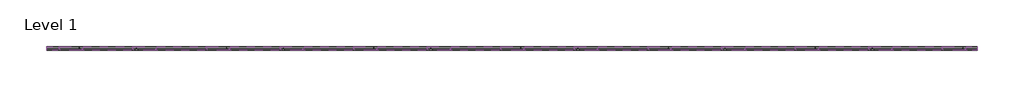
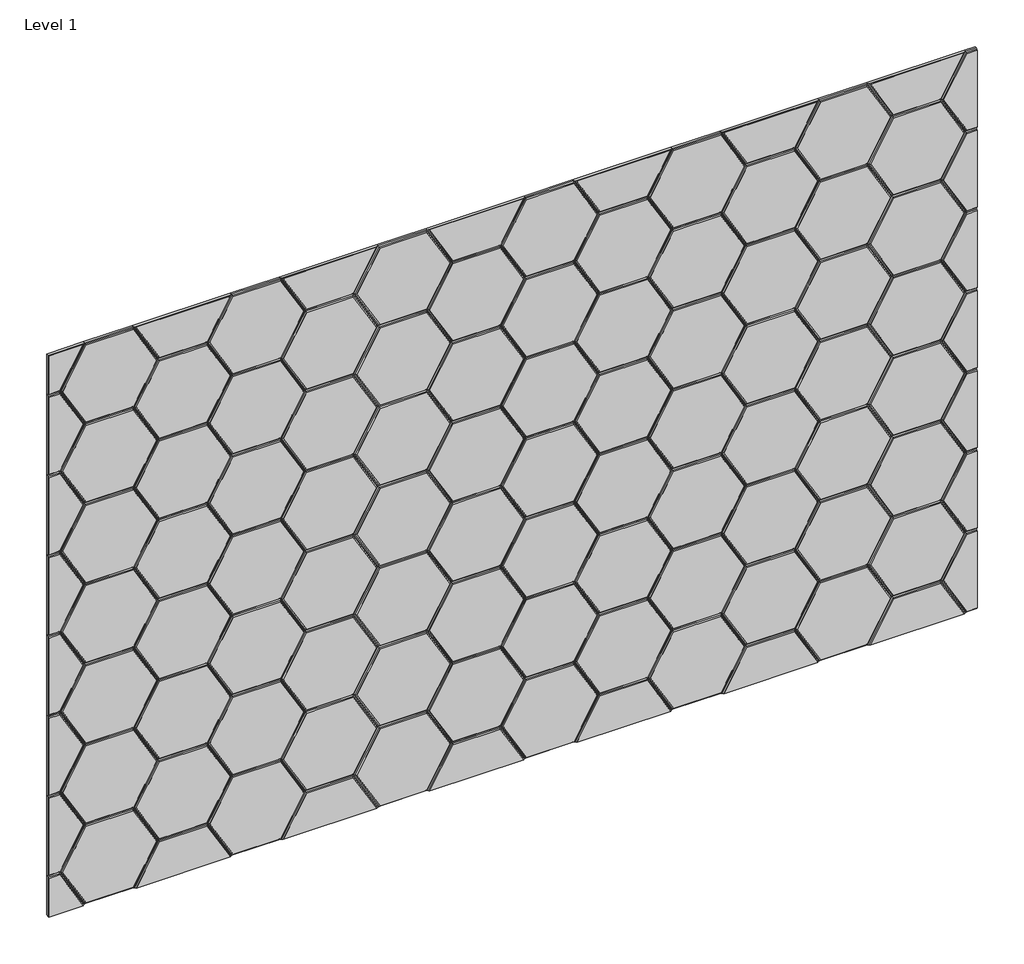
# One storey: 105 proxies.
"""IFC4 building model written with IfcOpenShell, lengths in millimetres."""

from ifc_helpers import new_model, si_unit, origin, place, context, project, spatial, transform, mapped, element, save
from components import chamfered_edge_9c3c0ad3, chamfered_edge_e754ccc9, chamfered_edge_8c6738dd, chamfered_edge_68122265, chamfered_edge_a27fcddb, chamfered_edge_5073ca42, chamfered_edge_54a6cffc

model = new_model("IFC4")

# Units and contexts
model_context = context("Model", 3, world=origin())
ifc_project = project(units=[si_unit("LENGTHUNIT", "METRE", prefix="MILLI")], contexts=[model_context])

# Site, building, storey
site = spatial("IfcSite", under=ifc_project)
building = spatial("IfcBuilding", under=site)
storey = spatial("IfcBuildingStorey", under=building, Name="Level 1", Elevation=0.0)

# Proxies
placement = place(None, origin())
chamfered_edge_shape = chamfered_edge_9c3c0ad3(model_context)
element("IfcBuildingElementProxy", 1, Name="FilzFelt_Hex_Block : Chamfered Edge", ObjectType="FilzFelt_Hex_Block : Chamfered Edge", at=placement, inside=storey, context=model_context, shape_type="MappedRepresentation", body=[
    mapped(chamfered_edge_shape, transform((28831.2237025, 4010.4660665, 1480.8), x_axis=(1.0, 0.0, 0.0), y_axis=(0.0, 0.0, 1.0), z_axis=(0.0, -1.0, 0.0))),
])
element("IfcBuildingElementProxy", 2, Name="FilzFelt_Hex_Block : Chamfered Edge", ObjectType="FilzFelt_Hex_Block : Chamfered Edge", at=placement, inside=storey, context=model_context, shape_type="MappedRepresentation", body=[
    mapped(chamfered_edge_shape, transform((28831.2237025, 4010.4660665, 2090.4), x_axis=(1.0, 0.0, 0.0), y_axis=(0.0, 0.0, 1.0), z_axis=(0.0, -1.0, 0.0))),
])
element("IfcBuildingElementProxy", 3, Name="FilzFelt_Hex_Block : Chamfered Edge", ObjectType="FilzFelt_Hex_Block : Chamfered Edge", at=placement, inside=storey, context=model_context, shape_type="MappedRepresentation", body=[
    mapped(chamfered_edge_shape, transform((28831.2237025, 4010.4660665, 871.2), x_axis=(1.0, 0.0, 0.0), y_axis=(0.0, 0.0, 1.0), z_axis=(0.0, -1.0, 0.0))),
])
element("IfcBuildingElementProxy", 4, Name="FilzFelt_Hex_Block : Chamfered Edge", ObjectType="FilzFelt_Hex_Block : Chamfered Edge", at=placement, inside=storey, context=model_context, shape_type="MappedRepresentation", body=[
    mapped(chamfered_edge_shape, transform((28831.2237025, 4010.4660665, 1785.6), x_axis=(1.0, 0.0, 0.0), y_axis=(0.0, 0.0, 1.0), z_axis=(0.0, -1.0, 0.0))),
])
element("IfcBuildingElementProxy", 5, Name="FilzFelt_Hex_Block : Chamfered Edge", ObjectType="FilzFelt_Hex_Block : Chamfered Edge", at=placement, inside=storey, context=model_context, shape_type="MappedRepresentation", body=[
    mapped(chamfered_edge_shape, transform((28831.2237025, 4010.4660665, 2395.2), x_axis=(1.0, 0.0, 0.0), y_axis=(0.0, 0.0, 1.0), z_axis=(0.0, -1.0, 0.0))),
])
element("IfcBuildingElementProxy", 6, Name="FilzFelt_Hex_Block : Chamfered Edge", ObjectType="FilzFelt_Hex_Block : Chamfered Edge", at=placement, inside=storey, context=model_context, shape_type="MappedRepresentation", body=[
    mapped(chamfered_edge_shape, transform((28831.2237025, 4010.4660665, 1176.0), x_axis=(1.0, 0.0, 0.0), y_axis=(0.0, 0.0, 1.0), z_axis=(0.0, -1.0, 0.0))),
])
chamfered_edge_2_shape = chamfered_edge_e754ccc9(model_context)
element("IfcBuildingElementProxy", 7, Name="FilzFelt_Hex_Block : Chamfered Edge", ObjectType="FilzFelt_Hex_Block : Chamfered Edge", at=placement, inside=storey, context=model_context, shape_type="MappedRepresentation", body=[
    mapped(chamfered_edge_2_shape, transform((29095.1882456, 4010.4660665, 1023.6), x_axis=(1.0, 0.0, 0.0), y_axis=(0.0, 0.0, 1.0), z_axis=(0.0, -1.0, 0.0))),
])
element("IfcBuildingElementProxy", 8, Name="FilzFelt_Hex_Block : Chamfered Edge", ObjectType="FilzFelt_Hex_Block : Chamfered Edge", at=placement, inside=storey, context=model_context, shape_type="MappedRepresentation", body=[
    mapped(chamfered_edge_2_shape, transform((29095.1882456, 4010.4660665, 1633.2), x_axis=(1.0, 0.0, 0.0), y_axis=(0.0, 0.0, 1.0), z_axis=(0.0, -1.0, 0.0))),
])
element("IfcBuildingElementProxy", 9, Name="FilzFelt_Hex_Block : Chamfered Edge", ObjectType="FilzFelt_Hex_Block : Chamfered Edge", at=placement, inside=storey, context=model_context, shape_type="MappedRepresentation", body=[
    mapped(chamfered_edge_2_shape, transform((29623.1173317, 4010.4660665, 1328.4), x_axis=(1.0, 0.0, 0.0), y_axis=(0.0, 0.0, 1.0), z_axis=(0.0, -1.0, 0.0))),
])
element("IfcBuildingElementProxy", 10, Name="FilzFelt_Hex_Block : Chamfered Edge", ObjectType="FilzFelt_Hex_Block : Chamfered Edge", at=placement, inside=storey, context=model_context, shape_type="MappedRepresentation", body=[
    mapped(chamfered_edge_2_shape, transform((29623.1173317, 4010.4660665, 1938.0), x_axis=(1.0, 0.0, 0.0), y_axis=(0.0, 0.0, 1.0), z_axis=(0.0, -1.0, 0.0))),
])
element("IfcBuildingElementProxy", 11, Name="FilzFelt_Hex_Block : Chamfered Edge", ObjectType="FilzFelt_Hex_Block : Chamfered Edge", at=placement, inside=storey, context=model_context, shape_type="MappedRepresentation", body=[
    mapped(chamfered_edge_2_shape, transform((29887.0818748, 4010.4660665, 1480.8), x_axis=(1.0, 0.0, 0.0), y_axis=(0.0, 0.0, 1.0), z_axis=(0.0, -1.0, 0.0))),
])
element("IfcBuildingElementProxy", 12, Name="FilzFelt_Hex_Block : Chamfered Edge", ObjectType="FilzFelt_Hex_Block : Chamfered Edge", at=placement, inside=storey, context=model_context, shape_type="MappedRepresentation", body=[
    mapped(chamfered_edge_2_shape, transform((30415.010961, 4010.4660665, 1785.6), x_axis=(1.0, 0.0, 0.0), y_axis=(0.0, 0.0, 1.0), z_axis=(0.0, -1.0, 0.0))),
])
element("IfcBuildingElementProxy", 13, Name="FilzFelt_Hex_Block : Chamfered Edge", ObjectType="FilzFelt_Hex_Block : Chamfered Edge", at=placement, inside=storey, context=model_context, shape_type="MappedRepresentation", body=[
    mapped(chamfered_edge_2_shape, transform((30678.975504, 4010.4660665, 1328.4), x_axis=(1.0, 0.0, 0.0), y_axis=(0.0, 0.0, 1.0), z_axis=(0.0, -1.0, 0.0))),
])
element("IfcBuildingElementProxy", 14, Name="FilzFelt_Hex_Block : Chamfered Edge", ObjectType="FilzFelt_Hex_Block : Chamfered Edge", at=placement, inside=storey, context=model_context, shape_type="MappedRepresentation", body=[
    mapped(chamfered_edge_2_shape, transform((30678.975504, 4010.4660665, 1938.0), x_axis=(1.0, 0.0, 0.0), y_axis=(0.0, 0.0, 1.0), z_axis=(0.0, -1.0, 0.0))),
])
element("IfcBuildingElementProxy", 15, Name="FilzFelt_Hex_Block : Chamfered Edge", ObjectType="FilzFelt_Hex_Block : Chamfered Edge", at=placement, inside=storey, context=model_context, shape_type="MappedRepresentation", body=[
    mapped(chamfered_edge_2_shape, transform((31206.9045902, 4010.4660665, 1023.6), x_axis=(1.0, 0.0, 0.0), y_axis=(0.0, 0.0, 1.0), z_axis=(0.0, -1.0, 0.0))),
])
element("IfcBuildingElementProxy", 16, Name="FilzFelt_Hex_Block : Chamfered Edge", ObjectType="FilzFelt_Hex_Block : Chamfered Edge", at=placement, inside=storey, context=model_context, shape_type="MappedRepresentation", body=[
    mapped(chamfered_edge_2_shape, transform((31206.9045902, 4010.4660665, 1633.2), x_axis=(1.0, 0.0, 0.0), y_axis=(0.0, 0.0, 1.0), z_axis=(0.0, -1.0, 0.0))),
])
element("IfcBuildingElementProxy", 17, Name="FilzFelt_Hex_Block : Chamfered Edge", ObjectType="FilzFelt_Hex_Block : Chamfered Edge", at=placement, inside=storey, context=model_context, shape_type="MappedRepresentation", body=[
    mapped(chamfered_edge_2_shape, transform((31470.8691332, 4010.4660665, 1785.6), x_axis=(1.0, 0.0, 0.0), y_axis=(0.0, 0.0, 1.0), z_axis=(0.0, -1.0, 0.0))),
])
element("IfcBuildingElementProxy", 18, Name="FilzFelt_Hex_Block : Chamfered Edge", ObjectType="FilzFelt_Hex_Block : Chamfered Edge", at=placement, inside=storey, context=model_context, shape_type="MappedRepresentation", body=[
    mapped(chamfered_edge_2_shape, transform((29095.1882456, 4010.4660665, 2242.8), x_axis=(1.0, 0.0, 0.0), y_axis=(0.0, 0.0, 1.0), z_axis=(0.0, -1.0, 0.0))),
])
element("IfcBuildingElementProxy", 19, Name="FilzFelt_Hex_Block : Chamfered Edge", ObjectType="FilzFelt_Hex_Block : Chamfered Edge", at=placement, inside=storey, context=model_context, shape_type="MappedRepresentation", body=[
    mapped(chamfered_edge_2_shape, transform((29623.1173317, 4010.4660665, 2547.6), x_axis=(1.0, 0.0, 0.0), y_axis=(0.0, 0.0, 1.0), z_axis=(0.0, -1.0, 0.0))),
])
element("IfcBuildingElementProxy", 20, Name="FilzFelt_Hex_Block : Chamfered Edge", ObjectType="FilzFelt_Hex_Block : Chamfered Edge", at=placement, inside=storey, context=model_context, shape_type="MappedRepresentation", body=[
    mapped(chamfered_edge_2_shape, transform((30415.010961, 4010.4660665, 2395.2), x_axis=(1.0, 0.0, 0.0), y_axis=(0.0, 0.0, 1.0), z_axis=(0.0, -1.0, 0.0))),
])
element("IfcBuildingElementProxy", 21, Name="FilzFelt_Hex_Block : Chamfered Edge", ObjectType="FilzFelt_Hex_Block : Chamfered Edge", at=placement, inside=storey, context=model_context, shape_type="MappedRepresentation", body=[
    mapped(chamfered_edge_2_shape, transform((30678.975504, 4010.4660665, 2547.6), x_axis=(1.0, 0.0, 0.0), y_axis=(0.0, 0.0, 1.0), z_axis=(0.0, -1.0, 0.0))),
])
element("IfcBuildingElementProxy", 22, Name="FilzFelt_Hex_Block : Chamfered Edge", ObjectType="FilzFelt_Hex_Block : Chamfered Edge", at=placement, inside=storey, context=model_context, shape_type="MappedRepresentation", body=[
    mapped(chamfered_edge_2_shape, transform((31206.9045902, 4010.4660665, 2242.8), x_axis=(1.0, 0.0, 0.0), y_axis=(0.0, 0.0, 1.0), z_axis=(0.0, -1.0, 0.0))),
])
element("IfcBuildingElementProxy", 23, Name="FilzFelt_Hex_Block : Chamfered Edge", ObjectType="FilzFelt_Hex_Block : Chamfered Edge", at=placement, inside=storey, context=model_context, shape_type="MappedRepresentation", body=[
    mapped(chamfered_edge_2_shape, transform((31470.8691332, 4010.4660665, 2395.2), x_axis=(1.0, 0.0, 0.0), y_axis=(0.0, 0.0, 1.0), z_axis=(0.0, -1.0, 0.0))),
])
element("IfcBuildingElementProxy", 24, Name="FilzFelt_Hex_Block : Chamfered Edge", ObjectType="FilzFelt_Hex_Block : Chamfered Edge", at=placement, inside=storey, context=model_context, shape_type="MappedRepresentation", body=[
    mapped(chamfered_edge_2_shape, transform((30415.010961, 4010.4660665, 1176.0), x_axis=(1.0, 0.0, 0.0), y_axis=(0.0, 0.0, 1.0), z_axis=(0.0, -1.0, 0.0))),
])
element("IfcBuildingElementProxy", 25, Name="FilzFelt_Hex_Block : Chamfered Edge", ObjectType="FilzFelt_Hex_Block : Chamfered Edge", at=placement, inside=storey, context=model_context, shape_type="MappedRepresentation", body=[
    mapped(chamfered_edge_2_shape, transform((31470.8691332, 4010.4660665, 1176.0), x_axis=(1.0, 0.0, 0.0), y_axis=(0.0, 0.0, 1.0), z_axis=(0.0, -1.0, 0.0))),
])
element("IfcBuildingElementProxy", 26, Name="FilzFelt_Hex_Block : Chamfered Edge", ObjectType="FilzFelt_Hex_Block : Chamfered Edge", at=placement, inside=storey, context=model_context, shape_type="MappedRepresentation", body=[
    mapped(chamfered_edge_2_shape, transform((29887.0818748, 4010.4660665, 2090.4), x_axis=(1.0, 0.0, 0.0), y_axis=(0.0, 0.0, 1.0), z_axis=(0.0, -1.0, 0.0))),
])
element("IfcBuildingElementProxy", 27, Name="FilzFelt_Hex_Block : Chamfered Edge", ObjectType="FilzFelt_Hex_Block : Chamfered Edge", at=placement, inside=storey, context=model_context, shape_type="MappedRepresentation", body=[
    mapped(chamfered_edge_2_shape, transform((29887.0818748, 4010.4660665, 871.2), x_axis=(1.0, 0.0, 0.0), y_axis=(0.0, 0.0, 1.0), z_axis=(0.0, -1.0, 0.0))),
])
element("IfcBuildingElementProxy", 28, Name="FilzFelt_Hex_Block : Chamfered Edge", ObjectType="FilzFelt_Hex_Block : Chamfered Edge", at=placement, inside=storey, context=model_context, shape_type="MappedRepresentation", body=[
    mapped(chamfered_edge_2_shape, transform((31998.7982194, 4010.4660665, 1480.8), x_axis=(1.0, 0.0, 0.0), y_axis=(0.0, 0.0, 1.0), z_axis=(0.0, -1.0, 0.0))),
])
element("IfcBuildingElementProxy", 29, Name="FilzFelt_Hex_Block : Chamfered Edge", ObjectType="FilzFelt_Hex_Block : Chamfered Edge", at=placement, inside=storey, context=model_context, shape_type="MappedRepresentation", body=[
    mapped(chamfered_edge_2_shape, transform((31998.7982194, 4010.4660665, 2090.4), x_axis=(1.0, 0.0, 0.0), y_axis=(0.0, 0.0, 1.0), z_axis=(0.0, -1.0, 0.0))),
])
element("IfcBuildingElementProxy", 30, Name="FilzFelt_Hex_Block : Chamfered Edge", ObjectType="FilzFelt_Hex_Block : Chamfered Edge", at=placement, inside=storey, context=model_context, shape_type="MappedRepresentation", body=[
    mapped(chamfered_edge_2_shape, transform((31998.7982194, 4010.4660665, 871.2), x_axis=(1.0, 0.0, 0.0), y_axis=(0.0, 0.0, 1.0), z_axis=(0.0, -1.0, 0.0))),
])
element("IfcBuildingElementProxy", 31, Name="FilzFelt_Hex_Block : Chamfered Edge", ObjectType="FilzFelt_Hex_Block : Chamfered Edge", at=placement, inside=storey, context=model_context, shape_type="MappedRepresentation", body=[
    mapped(chamfered_edge_2_shape, transform((29623.1173317, 4010.4660665, 718.8), x_axis=(1.0, 0.0, 0.0), y_axis=(0.0, 0.0, 1.0), z_axis=(0.0, -1.0, 0.0))),
])
element("IfcBuildingElementProxy", 32, Name="FilzFelt_Hex_Block : Chamfered Edge", ObjectType="FilzFelt_Hex_Block : Chamfered Edge", at=placement, inside=storey, context=model_context, shape_type="MappedRepresentation", body=[
    mapped(chamfered_edge_2_shape, transform((30678.975504, 4010.4660665, 718.8), x_axis=(1.0, 0.0, 0.0), y_axis=(0.0, 0.0, 1.0), z_axis=(0.0, -1.0, 0.0))),
])
element("IfcBuildingElementProxy", 33, Name="FilzFelt_Hex_Block : Chamfered Edge", ObjectType="FilzFelt_Hex_Block : Chamfered Edge", at=placement, inside=storey, context=model_context, shape_type="MappedRepresentation", body=[
    mapped(chamfered_edge_2_shape, transform((29095.1882456, 4010.4660665, 1328.4), x_axis=(1.0, 0.0, 0.0), y_axis=(0.0, 0.0, 1.0), z_axis=(0.0, -1.0, 0.0))),
])
element("IfcBuildingElementProxy", 34, Name="FilzFelt_Hex_Block : Chamfered Edge", ObjectType="FilzFelt_Hex_Block : Chamfered Edge", at=placement, inside=storey, context=model_context, shape_type="MappedRepresentation", body=[
    mapped(chamfered_edge_2_shape, transform((29095.1882456, 4010.4660665, 1938.0), x_axis=(1.0, 0.0, 0.0), y_axis=(0.0, 0.0, 1.0), z_axis=(0.0, -1.0, 0.0))),
])
element("IfcBuildingElementProxy", 35, Name="FilzFelt_Hex_Block : Chamfered Edge", ObjectType="FilzFelt_Hex_Block : Chamfered Edge", at=placement, inside=storey, context=model_context, shape_type="MappedRepresentation", body=[
    mapped(chamfered_edge_2_shape, transform((29359.1527887, 4010.4660665, 1480.8), x_axis=(1.0, 0.0, 0.0), y_axis=(0.0, 0.0, 1.0), z_axis=(0.0, -1.0, 0.0))),
])
element("IfcBuildingElementProxy", 36, Name="FilzFelt_Hex_Block : Chamfered Edge", ObjectType="FilzFelt_Hex_Block : Chamfered Edge", at=placement, inside=storey, context=model_context, shape_type="MappedRepresentation", body=[
    mapped(chamfered_edge_2_shape, transform((29887.0818748, 4010.4660665, 1785.6), x_axis=(1.0, 0.0, 0.0), y_axis=(0.0, 0.0, 1.0), z_axis=(0.0, -1.0, 0.0))),
])
element("IfcBuildingElementProxy", 37, Name="FilzFelt_Hex_Block : Chamfered Edge", ObjectType="FilzFelt_Hex_Block : Chamfered Edge", at=placement, inside=storey, context=model_context, shape_type="MappedRepresentation", body=[
    mapped(chamfered_edge_2_shape, transform((30151.0464179, 4010.4660665, 1328.4), x_axis=(1.0, 0.0, 0.0), y_axis=(0.0, 0.0, 1.0), z_axis=(0.0, -1.0, 0.0))),
])
element("IfcBuildingElementProxy", 38, Name="FilzFelt_Hex_Block : Chamfered Edge", ObjectType="FilzFelt_Hex_Block : Chamfered Edge", at=placement, inside=storey, context=model_context, shape_type="MappedRepresentation", body=[
    mapped(chamfered_edge_2_shape, transform((30151.0464179, 4010.4660665, 1938.0), x_axis=(1.0, 0.0, 0.0), y_axis=(0.0, 0.0, 1.0), z_axis=(0.0, -1.0, 0.0))),
])
element("IfcBuildingElementProxy", 39, Name="FilzFelt_Hex_Block : Chamfered Edge", ObjectType="FilzFelt_Hex_Block : Chamfered Edge", at=placement, inside=storey, context=model_context, shape_type="MappedRepresentation", body=[
    mapped(chamfered_edge_2_shape, transform((30678.975504, 4010.4660665, 1023.6), x_axis=(1.0, 0.0, 0.0), y_axis=(0.0, 0.0, 1.0), z_axis=(0.0, -1.0, 0.0))),
])
element("IfcBuildingElementProxy", 40, Name="FilzFelt_Hex_Block : Chamfered Edge", ObjectType="FilzFelt_Hex_Block : Chamfered Edge", at=placement, inside=storey, context=model_context, shape_type="MappedRepresentation", body=[
    mapped(chamfered_edge_2_shape, transform((30678.975504, 4010.4660665, 1633.2), x_axis=(1.0, 0.0, 0.0), y_axis=(0.0, 0.0, 1.0), z_axis=(0.0, -1.0, 0.0))),
])
element("IfcBuildingElementProxy", 41, Name="FilzFelt_Hex_Block : Chamfered Edge", ObjectType="FilzFelt_Hex_Block : Chamfered Edge", at=placement, inside=storey, context=model_context, shape_type="MappedRepresentation", body=[
    mapped(chamfered_edge_2_shape, transform((30942.9400471, 4010.4660665, 1785.6), x_axis=(1.0, 0.0, 0.0), y_axis=(0.0, 0.0, 1.0), z_axis=(0.0, -1.0, 0.0))),
])
element("IfcBuildingElementProxy", 42, Name="FilzFelt_Hex_Block : Chamfered Edge", ObjectType="FilzFelt_Hex_Block : Chamfered Edge", at=placement, inside=storey, context=model_context, shape_type="MappedRepresentation", body=[
    mapped(chamfered_edge_2_shape, transform((31470.8691332, 4010.4660665, 1480.8), x_axis=(1.0, 0.0, 0.0), y_axis=(0.0, 0.0, 1.0), z_axis=(0.0, -1.0, 0.0))),
])
element("IfcBuildingElementProxy", 43, Name="FilzFelt_Hex_Block : Chamfered Edge", ObjectType="FilzFelt_Hex_Block : Chamfered Edge", at=placement, inside=storey, context=model_context, shape_type="MappedRepresentation", body=[
    mapped(chamfered_edge_2_shape, transform((29095.1882456, 4010.4660665, 2547.6), x_axis=(1.0, 0.0, 0.0), y_axis=(0.0, 0.0, 1.0), z_axis=(0.0, -1.0, 0.0))),
])
element("IfcBuildingElementProxy", 44, Name="FilzFelt_Hex_Block : Chamfered Edge", ObjectType="FilzFelt_Hex_Block : Chamfered Edge", at=placement, inside=storey, context=model_context, shape_type="MappedRepresentation", body=[
    mapped(chamfered_edge_2_shape, transform((29887.0818748, 4010.4660665, 2395.2), x_axis=(1.0, 0.0, 0.0), y_axis=(0.0, 0.0, 1.0), z_axis=(0.0, -1.0, 0.0))),
])
element("IfcBuildingElementProxy", 45, Name="FilzFelt_Hex_Block : Chamfered Edge", ObjectType="FilzFelt_Hex_Block : Chamfered Edge", at=placement, inside=storey, context=model_context, shape_type="MappedRepresentation", body=[
    mapped(chamfered_edge_2_shape, transform((30151.0464179, 4010.4660665, 2547.6), x_axis=(1.0, 0.0, 0.0), y_axis=(0.0, 0.0, 1.0), z_axis=(0.0, -1.0, 0.0))),
])
element("IfcBuildingElementProxy", 46, Name="FilzFelt_Hex_Block : Chamfered Edge", ObjectType="FilzFelt_Hex_Block : Chamfered Edge", at=placement, inside=storey, context=model_context, shape_type="MappedRepresentation", body=[
    mapped(chamfered_edge_2_shape, transform((30678.975504, 4010.4660665, 2242.8), x_axis=(1.0, 0.0, 0.0), y_axis=(0.0, 0.0, 1.0), z_axis=(0.0, -1.0, 0.0))),
])
element("IfcBuildingElementProxy", 47, Name="FilzFelt_Hex_Block : Chamfered Edge", ObjectType="FilzFelt_Hex_Block : Chamfered Edge", at=placement, inside=storey, context=model_context, shape_type="MappedRepresentation", body=[
    mapped(chamfered_edge_2_shape, transform((30942.9400471, 4010.4660665, 2395.2), x_axis=(1.0, 0.0, 0.0), y_axis=(0.0, 0.0, 1.0), z_axis=(0.0, -1.0, 0.0))),
])
element("IfcBuildingElementProxy", 48, Name="FilzFelt_Hex_Block : Chamfered Edge", ObjectType="FilzFelt_Hex_Block : Chamfered Edge", at=placement, inside=storey, context=model_context, shape_type="MappedRepresentation", body=[
    mapped(chamfered_edge_2_shape, transform((29887.0818748, 4010.4660665, 1176.0), x_axis=(1.0, 0.0, 0.0), y_axis=(0.0, 0.0, 1.0), z_axis=(0.0, -1.0, 0.0))),
])
element("IfcBuildingElementProxy", 49, Name="FilzFelt_Hex_Block : Chamfered Edge", ObjectType="FilzFelt_Hex_Block : Chamfered Edge", at=placement, inside=storey, context=model_context, shape_type="MappedRepresentation", body=[
    mapped(chamfered_edge_2_shape, transform((30942.9400471, 4010.4660665, 1176.0), x_axis=(1.0, 0.0, 0.0), y_axis=(0.0, 0.0, 1.0), z_axis=(0.0, -1.0, 0.0))),
])
element("IfcBuildingElementProxy", 50, Name="FilzFelt_Hex_Block : Chamfered Edge", ObjectType="FilzFelt_Hex_Block : Chamfered Edge", at=placement, inside=storey, context=model_context, shape_type="MappedRepresentation", body=[
    mapped(chamfered_edge_2_shape, transform((29359.1527887, 4010.4660665, 2090.4), x_axis=(1.0, 0.0, 0.0), y_axis=(0.0, 0.0, 1.0), z_axis=(0.0, -1.0, 0.0))),
])
element("IfcBuildingElementProxy", 51, Name="FilzFelt_Hex_Block : Chamfered Edge", ObjectType="FilzFelt_Hex_Block : Chamfered Edge", at=placement, inside=storey, context=model_context, shape_type="MappedRepresentation", body=[
    mapped(chamfered_edge_2_shape, transform((31470.8691332, 4010.4660665, 2090.4), x_axis=(1.0, 0.0, 0.0), y_axis=(0.0, 0.0, 1.0), z_axis=(0.0, -1.0, 0.0))),
])
element("IfcBuildingElementProxy", 52, Name="FilzFelt_Hex_Block : Chamfered Edge", ObjectType="FilzFelt_Hex_Block : Chamfered Edge", at=placement, inside=storey, context=model_context, shape_type="MappedRepresentation", body=[
    mapped(chamfered_edge_2_shape, transform((29359.1527887, 4010.4660665, 871.2), x_axis=(1.0, 0.0, 0.0), y_axis=(0.0, 0.0, 1.0), z_axis=(0.0, -1.0, 0.0))),
])
element("IfcBuildingElementProxy", 53, Name="FilzFelt_Hex_Block : Chamfered Edge", ObjectType="FilzFelt_Hex_Block : Chamfered Edge", at=placement, inside=storey, context=model_context, shape_type="MappedRepresentation", body=[
    mapped(chamfered_edge_2_shape, transform((31470.8691332, 4010.4660665, 871.2), x_axis=(1.0, 0.0, 0.0), y_axis=(0.0, 0.0, 1.0), z_axis=(0.0, -1.0, 0.0))),
])
element("IfcBuildingElementProxy", 54, Name="FilzFelt_Hex_Block : Chamfered Edge", ObjectType="FilzFelt_Hex_Block : Chamfered Edge", at=placement, inside=storey, context=model_context, shape_type="MappedRepresentation", body=[
    mapped(chamfered_edge_2_shape, transform((31734.8336763, 4010.4660665, 1023.6), x_axis=(1.0, 0.0, 0.0), y_axis=(0.0, 0.0, 1.0), z_axis=(0.0, -1.0, 0.0))),
])
element("IfcBuildingElementProxy", 55, Name="FilzFelt_Hex_Block : Chamfered Edge", ObjectType="FilzFelt_Hex_Block : Chamfered Edge", at=placement, inside=storey, context=model_context, shape_type="MappedRepresentation", body=[
    mapped(chamfered_edge_2_shape, transform((31734.8336763, 4010.4660665, 1633.2), x_axis=(1.0, 0.0, 0.0), y_axis=(0.0, 0.0, 1.0), z_axis=(0.0, -1.0, 0.0))),
])
element("IfcBuildingElementProxy", 56, Name="FilzFelt_Hex_Block : Chamfered Edge", ObjectType="FilzFelt_Hex_Block : Chamfered Edge", at=placement, inside=storey, context=model_context, shape_type="MappedRepresentation", body=[
    mapped(chamfered_edge_2_shape, transform((31734.8336763, 4010.4660665, 2242.8), x_axis=(1.0, 0.0, 0.0), y_axis=(0.0, 0.0, 1.0), z_axis=(0.0, -1.0, 0.0))),
])
element("IfcBuildingElementProxy", 57, Name="FilzFelt_Hex_Block : Chamfered Edge", ObjectType="FilzFelt_Hex_Block : Chamfered Edge", at=placement, inside=storey, context=model_context, shape_type="MappedRepresentation", body=[
    mapped(chamfered_edge_2_shape, transform((29095.1882456, 4010.4660665, 718.8), x_axis=(1.0, 0.0, 0.0), y_axis=(0.0, 0.0, 1.0), z_axis=(0.0, -1.0, 0.0))),
])
element("IfcBuildingElementProxy", 58, Name="FilzFelt_Hex_Block : Chamfered Edge", ObjectType="FilzFelt_Hex_Block : Chamfered Edge", at=placement, inside=storey, context=model_context, shape_type="MappedRepresentation", body=[
    mapped(chamfered_edge_2_shape, transform((30151.0464179, 4010.4660665, 718.8), x_axis=(1.0, 0.0, 0.0), y_axis=(0.0, 0.0, 1.0), z_axis=(0.0, -1.0, 0.0))),
])
element("IfcBuildingElementProxy", 59, Name="FilzFelt_Hex_Block : Chamfered Edge", ObjectType="FilzFelt_Hex_Block : Chamfered Edge", at=placement, inside=storey, context=model_context, shape_type="MappedRepresentation", body=[
    mapped(chamfered_edge_2_shape, transform((29359.1527887, 4010.4660665, 1785.6), x_axis=(1.0, 0.0, 0.0), y_axis=(0.0, 0.0, 1.0), z_axis=(0.0, -1.0, 0.0))),
])
element("IfcBuildingElementProxy", 60, Name="FilzFelt_Hex_Block : Chamfered Edge", ObjectType="FilzFelt_Hex_Block : Chamfered Edge", at=placement, inside=storey, context=model_context, shape_type="MappedRepresentation", body=[
    mapped(chamfered_edge_2_shape, transform((29623.1173317, 4010.4660665, 1023.6), x_axis=(1.0, 0.0, 0.0), y_axis=(0.0, 0.0, 1.0), z_axis=(0.0, -1.0, 0.0))),
])
element("IfcBuildingElementProxy", 61, Name="FilzFelt_Hex_Block : Chamfered Edge", ObjectType="FilzFelt_Hex_Block : Chamfered Edge", at=placement, inside=storey, context=model_context, shape_type="MappedRepresentation", body=[
    mapped(chamfered_edge_2_shape, transform((29623.1173317, 4010.4660665, 1633.2), x_axis=(1.0, 0.0, 0.0), y_axis=(0.0, 0.0, 1.0), z_axis=(0.0, -1.0, 0.0))),
])
element("IfcBuildingElementProxy", 62, Name="FilzFelt_Hex_Block : Chamfered Edge", ObjectType="FilzFelt_Hex_Block : Chamfered Edge", at=placement, inside=storey, context=model_context, shape_type="MappedRepresentation", body=[
    mapped(chamfered_edge_2_shape, transform((30151.0464179, 4010.4660665, 1023.6), x_axis=(1.0, 0.0, 0.0), y_axis=(0.0, 0.0, 1.0), z_axis=(0.0, -1.0, 0.0))),
])
element("IfcBuildingElementProxy", 63, Name="FilzFelt_Hex_Block : Chamfered Edge", ObjectType="FilzFelt_Hex_Block : Chamfered Edge", at=placement, inside=storey, context=model_context, shape_type="MappedRepresentation", body=[
    mapped(chamfered_edge_2_shape, transform((30151.0464179, 4010.4660665, 1633.2), x_axis=(1.0, 0.0, 0.0), y_axis=(0.0, 0.0, 1.0), z_axis=(0.0, -1.0, 0.0))),
])
element("IfcBuildingElementProxy", 64, Name="FilzFelt_Hex_Block : Chamfered Edge", ObjectType="FilzFelt_Hex_Block : Chamfered Edge", at=placement, inside=storey, context=model_context, shape_type="MappedRepresentation", body=[
    mapped(chamfered_edge_2_shape, transform((30415.010961, 4010.4660665, 1480.8), x_axis=(1.0, 0.0, 0.0), y_axis=(0.0, 0.0, 1.0), z_axis=(0.0, -1.0, 0.0))),
])
element("IfcBuildingElementProxy", 65, Name="FilzFelt_Hex_Block : Chamfered Edge", ObjectType="FilzFelt_Hex_Block : Chamfered Edge", at=placement, inside=storey, context=model_context, shape_type="MappedRepresentation", body=[
    mapped(chamfered_edge_2_shape, transform((30942.9400471, 4010.4660665, 1480.8), x_axis=(1.0, 0.0, 0.0), y_axis=(0.0, 0.0, 1.0), z_axis=(0.0, -1.0, 0.0))),
])
element("IfcBuildingElementProxy", 66, Name="FilzFelt_Hex_Block : Chamfered Edge", ObjectType="FilzFelt_Hex_Block : Chamfered Edge", at=placement, inside=storey, context=model_context, shape_type="MappedRepresentation", body=[
    mapped(chamfered_edge_2_shape, transform((31206.9045902, 4010.4660665, 1328.4), x_axis=(1.0, 0.0, 0.0), y_axis=(0.0, 0.0, 1.0), z_axis=(0.0, -1.0, 0.0))),
])
element("IfcBuildingElementProxy", 67, Name="FilzFelt_Hex_Block : Chamfered Edge", ObjectType="FilzFelt_Hex_Block : Chamfered Edge", at=placement, inside=storey, context=model_context, shape_type="MappedRepresentation", body=[
    mapped(chamfered_edge_2_shape, transform((31206.9045902, 4010.4660665, 1938.0), x_axis=(1.0, 0.0, 0.0), y_axis=(0.0, 0.0, 1.0), z_axis=(0.0, -1.0, 0.0))),
])
element("IfcBuildingElementProxy", 68, Name="FilzFelt_Hex_Block : Chamfered Edge", ObjectType="FilzFelt_Hex_Block : Chamfered Edge", at=placement, inside=storey, context=model_context, shape_type="MappedRepresentation", body=[
    mapped(chamfered_edge_2_shape, transform((29359.1527887, 4010.4660665, 2395.2), x_axis=(1.0, 0.0, 0.0), y_axis=(0.0, 0.0, 1.0), z_axis=(0.0, -1.0, 0.0))),
])
element("IfcBuildingElementProxy", 69, Name="FilzFelt_Hex_Block : Chamfered Edge", ObjectType="FilzFelt_Hex_Block : Chamfered Edge", at=placement, inside=storey, context=model_context, shape_type="MappedRepresentation", body=[
    mapped(chamfered_edge_2_shape, transform((29623.1173317, 4010.4660665, 2242.8), x_axis=(1.0, 0.0, 0.0), y_axis=(0.0, 0.0, 1.0), z_axis=(0.0, -1.0, 0.0))),
])
element("IfcBuildingElementProxy", 70, Name="FilzFelt_Hex_Block : Chamfered Edge", ObjectType="FilzFelt_Hex_Block : Chamfered Edge", at=placement, inside=storey, context=model_context, shape_type="MappedRepresentation", body=[
    mapped(chamfered_edge_2_shape, transform((30151.0464179, 4010.4660665, 2242.8), x_axis=(1.0, 0.0, 0.0), y_axis=(0.0, 0.0, 1.0), z_axis=(0.0, -1.0, 0.0))),
])
element("IfcBuildingElementProxy", 71, Name="FilzFelt_Hex_Block : Chamfered Edge", ObjectType="FilzFelt_Hex_Block : Chamfered Edge", at=placement, inside=storey, context=model_context, shape_type="MappedRepresentation", body=[
    mapped(chamfered_edge_2_shape, transform((31206.9045902, 4010.4660665, 2547.6), x_axis=(1.0, 0.0, 0.0), y_axis=(0.0, 0.0, 1.0), z_axis=(0.0, -1.0, 0.0))),
])
element("IfcBuildingElementProxy", 72, Name="FilzFelt_Hex_Block : Chamfered Edge", ObjectType="FilzFelt_Hex_Block : Chamfered Edge", at=placement, inside=storey, context=model_context, shape_type="MappedRepresentation", body=[
    mapped(chamfered_edge_2_shape, transform((29359.1527887, 4010.4660665, 1176.0), x_axis=(1.0, 0.0, 0.0), y_axis=(0.0, 0.0, 1.0), z_axis=(0.0, -1.0, 0.0))),
])
element("IfcBuildingElementProxy", 73, Name="FilzFelt_Hex_Block : Chamfered Edge", ObjectType="FilzFelt_Hex_Block : Chamfered Edge", at=placement, inside=storey, context=model_context, shape_type="MappedRepresentation", body=[
    mapped(chamfered_edge_2_shape, transform((30415.010961, 4010.4660665, 2090.4), x_axis=(1.0, 0.0, 0.0), y_axis=(0.0, 0.0, 1.0), z_axis=(0.0, -1.0, 0.0))),
])
element("IfcBuildingElementProxy", 74, Name="FilzFelt_Hex_Block : Chamfered Edge", ObjectType="FilzFelt_Hex_Block : Chamfered Edge", at=placement, inside=storey, context=model_context, shape_type="MappedRepresentation", body=[
    mapped(chamfered_edge_2_shape, transform((30942.9400471, 4010.4660665, 2090.4), x_axis=(1.0, 0.0, 0.0), y_axis=(0.0, 0.0, 1.0), z_axis=(0.0, -1.0, 0.0))),
])
element("IfcBuildingElementProxy", 75, Name="FilzFelt_Hex_Block : Chamfered Edge", ObjectType="FilzFelt_Hex_Block : Chamfered Edge", at=placement, inside=storey, context=model_context, shape_type="MappedRepresentation", body=[
    mapped(chamfered_edge_2_shape, transform((30415.010961, 4010.4660665, 871.2), x_axis=(1.0, 0.0, 0.0), y_axis=(0.0, 0.0, 1.0), z_axis=(0.0, -1.0, 0.0))),
])
element("IfcBuildingElementProxy", 76, Name="FilzFelt_Hex_Block : Chamfered Edge", ObjectType="FilzFelt_Hex_Block : Chamfered Edge", at=placement, inside=storey, context=model_context, shape_type="MappedRepresentation", body=[
    mapped(chamfered_edge_2_shape, transform((30942.9400471, 4010.4660665, 871.2), x_axis=(1.0, 0.0, 0.0), y_axis=(0.0, 0.0, 1.0), z_axis=(0.0, -1.0, 0.0))),
])
element("IfcBuildingElementProxy", 77, Name="FilzFelt_Hex_Block : Chamfered Edge", ObjectType="FilzFelt_Hex_Block : Chamfered Edge", at=placement, inside=storey, context=model_context, shape_type="MappedRepresentation", body=[
    mapped(chamfered_edge_2_shape, transform((31734.8336763, 4010.4660665, 1328.4), x_axis=(1.0, 0.0, 0.0), y_axis=(0.0, 0.0, 1.0), z_axis=(0.0, -1.0, 0.0))),
])
element("IfcBuildingElementProxy", 78, Name="FilzFelt_Hex_Block : Chamfered Edge", ObjectType="FilzFelt_Hex_Block : Chamfered Edge", at=placement, inside=storey, context=model_context, shape_type="MappedRepresentation", body=[
    mapped(chamfered_edge_2_shape, transform((31734.8336763, 4010.4660665, 1938.0), x_axis=(1.0, 0.0, 0.0), y_axis=(0.0, 0.0, 1.0), z_axis=(0.0, -1.0, 0.0))),
])
element("IfcBuildingElementProxy", 79, Name="FilzFelt_Hex_Block : Chamfered Edge", ObjectType="FilzFelt_Hex_Block : Chamfered Edge", at=placement, inside=storey, context=model_context, shape_type="MappedRepresentation", body=[
    mapped(chamfered_edge_2_shape, transform((31998.7982194, 4010.4660665, 1785.6), x_axis=(1.0, 0.0, 0.0), y_axis=(0.0, 0.0, 1.0), z_axis=(0.0, -1.0, 0.0))),
])
element("IfcBuildingElementProxy", 80, Name="FilzFelt_Hex_Block : Chamfered Edge", ObjectType="FilzFelt_Hex_Block : Chamfered Edge", at=placement, inside=storey, context=model_context, shape_type="MappedRepresentation", body=[
    mapped(chamfered_edge_2_shape, transform((31734.8336763, 4010.4660665, 2547.6), x_axis=(1.0, 0.0, 0.0), y_axis=(0.0, 0.0, 1.0), z_axis=(0.0, -1.0, 0.0))),
])
element("IfcBuildingElementProxy", 81, Name="FilzFelt_Hex_Block : Chamfered Edge", ObjectType="FilzFelt_Hex_Block : Chamfered Edge", at=placement, inside=storey, context=model_context, shape_type="MappedRepresentation", body=[
    mapped(chamfered_edge_2_shape, transform((31998.7982194, 4010.4660665, 2395.2), x_axis=(1.0, 0.0, 0.0), y_axis=(0.0, 0.0, 1.0), z_axis=(0.0, -1.0, 0.0))),
])
element("IfcBuildingElementProxy", 82, Name="FilzFelt_Hex_Block : Chamfered Edge", ObjectType="FilzFelt_Hex_Block : Chamfered Edge", at=placement, inside=storey, context=model_context, shape_type="MappedRepresentation", body=[
    mapped(chamfered_edge_2_shape, transform((31998.7982194, 4010.4660665, 1176.0), x_axis=(1.0, 0.0, 0.0), y_axis=(0.0, 0.0, 1.0), z_axis=(0.0, -1.0, 0.0))),
])
element("IfcBuildingElementProxy", 83, Name="FilzFelt_Hex_Block : Chamfered Edge", ObjectType="FilzFelt_Hex_Block : Chamfered Edge", at=placement, inside=storey, context=model_context, shape_type="MappedRepresentation", body=[
    mapped(chamfered_edge_2_shape, transform((31206.9045902, 4010.4660665, 718.8), x_axis=(1.0, 0.0, 0.0), y_axis=(0.0, 0.0, 1.0), z_axis=(0.0, -1.0, 0.0))),
])
element("IfcBuildingElementProxy", 84, Name="FilzFelt_Hex_Block : Chamfered Edge", ObjectType="FilzFelt_Hex_Block : Chamfered Edge", at=placement, inside=storey, context=model_context, shape_type="MappedRepresentation", body=[
    mapped(chamfered_edge_2_shape, transform((31734.8336763, 4010.4660665, 718.8), x_axis=(1.0, 0.0, 0.0), y_axis=(0.0, 0.0, 1.0), z_axis=(0.0, -1.0, 0.0))),
])
chamfered_edge_3_shape = chamfered_edge_8c6738dd(model_context)
element("IfcBuildingElementProxy", 85, Name="FilzFelt_Hex_Block : Chamfered Edge", ObjectType="FilzFelt_Hex_Block : Chamfered Edge", at=placement, inside=storey, context=model_context, shape_type="MappedRepresentation", body=[
    mapped(chamfered_edge_3_shape, transform((29359.1527887, 4010.4660665, 2700.0), x_axis=(-1.0, 0.0, 0.0), y_axis=(0.0, 0.0, -1.0), z_axis=(0.0, -1.0, 0.0))),
])
element("IfcBuildingElementProxy", 86, Name="FilzFelt_Hex_Block : Chamfered Edge", ObjectType="FilzFelt_Hex_Block : Chamfered Edge", at=placement, inside=storey, context=model_context, shape_type="MappedRepresentation", body=[
    mapped(chamfered_edge_3_shape, transform((31470.8691333, 4010.4660665, 2700.0), x_axis=(-1.0, 0.0, 0.0), y_axis=(0.0, 0.0, -1.0), z_axis=(0.0, -1.0, 0.0))),
])
element("IfcBuildingElementProxy", 87, Name="FilzFelt_Hex_Block : Chamfered Edge", ObjectType="FilzFelt_Hex_Block : Chamfered Edge", at=placement, inside=storey, context=model_context, shape_type="MappedRepresentation", body=[
    mapped(chamfered_edge_3_shape, transform((29887.0818748, 4010.4660665, 2700.0), x_axis=(-1.0, 0.0, 0.0), y_axis=(0.0, 0.0, -1.0), z_axis=(0.0, -1.0, 0.0))),
])
element("IfcBuildingElementProxy", 88, Name="FilzFelt_Hex_Block : Chamfered Edge", ObjectType="FilzFelt_Hex_Block : Chamfered Edge", at=placement, inside=storey, context=model_context, shape_type="MappedRepresentation", body=[
    mapped(chamfered_edge_3_shape, transform((31998.7982194, 4010.4660665, 2700.0), x_axis=(-1.0, 0.0, 0.0), y_axis=(0.0, 0.0, -1.0), z_axis=(0.0, -1.0, 0.0))),
])
element("IfcBuildingElementProxy", 89, Name="FilzFelt_Hex_Block : Chamfered Edge", ObjectType="FilzFelt_Hex_Block : Chamfered Edge", at=placement, inside=storey, context=model_context, shape_type="MappedRepresentation", body=[
    mapped(chamfered_edge_3_shape, transform((30415.010961, 4010.4660665, 2700.0), x_axis=(-1.0, 0.0, 0.0), y_axis=(0.0, 0.0, -1.0), z_axis=(0.0, -1.0, 0.0))),
])
element("IfcBuildingElementProxy", 90, Name="FilzFelt_Hex_Block : Chamfered Edge", ObjectType="FilzFelt_Hex_Block : Chamfered Edge", at=placement, inside=storey, context=model_context, shape_type="MappedRepresentation", body=[
    mapped(chamfered_edge_3_shape, transform((30942.9400471, 4010.4660665, 2700.0), x_axis=(-1.0, 0.0, 0.0), y_axis=(0.0, 0.0, -1.0), z_axis=(0.0, -1.0, 0.0))),
])
chamfered_edge_4_shape = chamfered_edge_68122265(model_context)
element("IfcBuildingElementProxy", 91, Name="FilzFelt_Hex_Block : Chamfered Edge", ObjectType="FilzFelt_Hex_Block : Chamfered Edge", at=placement, inside=storey, context=model_context, shape_type="MappedRepresentation", body=[
    mapped(chamfered_edge_4_shape, transform((29359.1527887, 4010.4660665, 566.4), x_axis=(-1.0, 0.0, 0.0), y_axis=(0.0, 0.0, -1.0), z_axis=(0.0, -1.0, 0.0))),
])
element("IfcBuildingElementProxy", 92, Name="FilzFelt_Hex_Block : Chamfered Edge", ObjectType="FilzFelt_Hex_Block : Chamfered Edge", at=placement, inside=storey, context=model_context, shape_type="MappedRepresentation", body=[
    mapped(chamfered_edge_4_shape, transform((31998.7982194, 4010.4660665, 566.4), x_axis=(-1.0, 0.0, 0.0), y_axis=(0.0, 0.0, -1.0), z_axis=(0.0, -1.0, 0.0))),
])
element("IfcBuildingElementProxy", 93, Name="FilzFelt_Hex_Block : Chamfered Edge", ObjectType="FilzFelt_Hex_Block : Chamfered Edge", at=placement, inside=storey, context=model_context, shape_type="MappedRepresentation", body=[
    mapped(chamfered_edge_4_shape, transform((29887.0818748, 4010.4660665, 566.4), x_axis=(-1.0, 0.0, 0.0), y_axis=(0.0, 0.0, -1.0), z_axis=(0.0, -1.0, 0.0))),
])
element("IfcBuildingElementProxy", 94, Name="FilzFelt_Hex_Block : Chamfered Edge", ObjectType="FilzFelt_Hex_Block : Chamfered Edge", at=placement, inside=storey, context=model_context, shape_type="MappedRepresentation", body=[
    mapped(chamfered_edge_4_shape, transform((30942.9400471, 4010.4660665, 566.4), x_axis=(-1.0, 0.0, 0.0), y_axis=(0.0, 0.0, -1.0), z_axis=(0.0, -1.0, 0.0))),
])
element("IfcBuildingElementProxy", 95, Name="FilzFelt_Hex_Block : Chamfered Edge", ObjectType="FilzFelt_Hex_Block : Chamfered Edge", at=placement, inside=storey, context=model_context, shape_type="MappedRepresentation", body=[
    mapped(chamfered_edge_4_shape, transform((30415.010961, 4010.4660665, 566.4), x_axis=(-1.0, 0.0, 0.0), y_axis=(0.0, 0.0, -1.0), z_axis=(0.0, -1.0, 0.0))),
])
element("IfcBuildingElementProxy", 96, Name="FilzFelt_Hex_Block : Chamfered Edge", ObjectType="FilzFelt_Hex_Block : Chamfered Edge", at=placement, inside=storey, context=model_context, shape_type="MappedRepresentation", body=[
    mapped(chamfered_edge_4_shape, transform((31470.8691333, 4010.4660665, 566.4), x_axis=(-1.0, 0.0, 0.0), y_axis=(0.0, 0.0, -1.0), z_axis=(0.0, -1.0, 0.0))),
])
chamfered_edge_5_shape = chamfered_edge_a27fcddb(model_context)
element("IfcBuildingElementProxy", 97, Name="FilzFelt_Hex_Block : Chamfered Edge", ObjectType="FilzFelt_Hex_Block : Chamfered Edge", at=placement, inside=storey, context=model_context, shape_type="MappedRepresentation", body=[
    mapped(chamfered_edge_5_shape, transform((32262.7627625, 4010.4660665, 1023.6), x_axis=(1.0, 0.0, 0.0), y_axis=(0.0, 0.0, 1.0), z_axis=(0.0, -1.0, 0.0))),
])
element("IfcBuildingElementProxy", 98, Name="FilzFelt_Hex_Block : Chamfered Edge", ObjectType="FilzFelt_Hex_Block : Chamfered Edge", at=placement, inside=storey, context=model_context, shape_type="MappedRepresentation", body=[
    mapped(chamfered_edge_5_shape, transform((32262.7627625, 4010.4660665, 1633.2), x_axis=(1.0, 0.0, 0.0), y_axis=(0.0, 0.0, 1.0), z_axis=(0.0, -1.0, 0.0))),
])
element("IfcBuildingElementProxy", 99, Name="FilzFelt_Hex_Block : Chamfered Edge", ObjectType="FilzFelt_Hex_Block : Chamfered Edge", at=placement, inside=storey, context=model_context, shape_type="MappedRepresentation", body=[
    mapped(chamfered_edge_5_shape, transform((32262.7627625, 4010.4660665, 2242.8), x_axis=(1.0, 0.0, 0.0), y_axis=(0.0, 0.0, 1.0), z_axis=(0.0, -1.0, 0.0))),
])
element("IfcBuildingElementProxy", 100, Name="FilzFelt_Hex_Block : Chamfered Edge", ObjectType="FilzFelt_Hex_Block : Chamfered Edge", at=placement, inside=storey, context=model_context, shape_type="MappedRepresentation", body=[
    mapped(chamfered_edge_5_shape, transform((32262.7627625, 4010.4660665, 1328.4), x_axis=(1.0, 0.0, 0.0), y_axis=(0.0, 0.0, 1.0), z_axis=(0.0, -1.0, 0.0))),
])
element("IfcBuildingElementProxy", 101, Name="FilzFelt_Hex_Block : Chamfered Edge", ObjectType="FilzFelt_Hex_Block : Chamfered Edge", at=placement, inside=storey, context=model_context, shape_type="MappedRepresentation", body=[
    mapped(chamfered_edge_5_shape, transform((32262.7627625, 4010.4660665, 1938.0), x_axis=(1.0, 0.0, 0.0), y_axis=(0.0, 0.0, 1.0), z_axis=(0.0, -1.0, 0.0))),
])
element("IfcBuildingElementProxy", 102, Name="FilzFelt_Hex_Block : Chamfered Edge", ObjectType="FilzFelt_Hex_Block : Chamfered Edge", at=placement, inside=storey, context=model_context, shape_type="MappedRepresentation", body=[
    mapped(chamfered_edge_5_shape, transform((32262.7627625, 4010.4660665, 2547.6), x_axis=(1.0, 0.0, 0.0), y_axis=(0.0, 0.0, 1.0), z_axis=(0.0, -1.0, 0.0))),
])
element("IfcBuildingElementProxy", 103, Name="FilzFelt_Hex_Block : Chamfered Edge", ObjectType="FilzFelt_Hex_Block : Chamfered Edge", at=placement, inside=storey, context=model_context, shape_type="MappedRepresentation", body=[
    mapped(chamfered_edge_5_shape, transform((32262.7627625, 4010.4660665, 718.8), x_axis=(1.0, 0.0, 0.0), y_axis=(0.0, 0.0, 1.0), z_axis=(0.0, -1.0, 0.0))),
])
chamfered_edge_6_shape = chamfered_edge_5073ca42(model_context)
element("IfcBuildingElementProxy", 104, Name="FilzFelt_Hex_Block : Chamfered Edge", ObjectType="FilzFelt_Hex_Block : Chamfered Edge", at=placement, inside=storey, context=model_context, shape_type="MappedRepresentation", body=[
    mapped(chamfered_edge_6_shape, transform((28831.2237025, 4010.4660665, 2700.0), x_axis=(1.0, 0.0, 0.0), y_axis=(0.0, 0.0, 1.0), z_axis=(0.0, -1.0, 0.0))),
])
chamfered_edge_7_shape = chamfered_edge_54a6cffc(model_context)
element("IfcBuildingElementProxy", 105, Name="FilzFelt_Hex_Block : Chamfered Edge", ObjectType="FilzFelt_Hex_Block : Chamfered Edge", at=placement, inside=storey, context=model_context, shape_type="MappedRepresentation", body=[
    mapped(chamfered_edge_7_shape, transform((28831.2237025, 4010.4660665, 566.4), x_axis=(1.0, 0.0, 0.0), y_axis=(0.0, 0.0, 1.0), z_axis=(0.0, -1.0, 0.0))),
])

save(model, "model.ifc")
